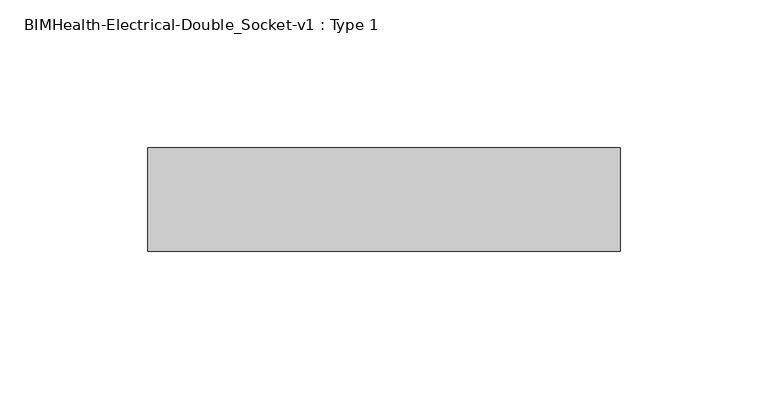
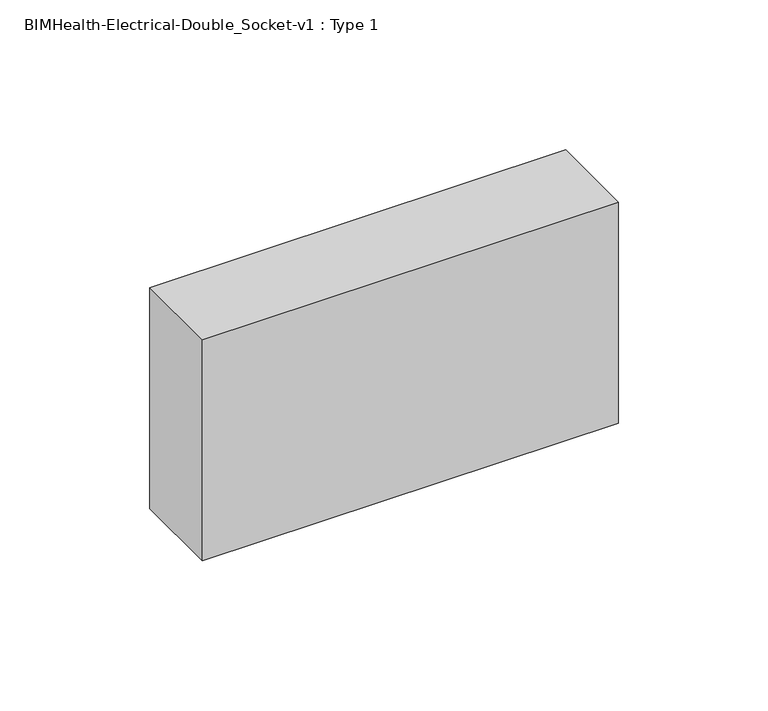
"""IFC4 building model written with IfcOpenShell, lengths in millimetres: proxy geometry, BIMHealth-Electrical-Double_Socket-v1 : Type 1."""

from ifc_helpers import new_model, si_unit, frame, origin, place, context, project, spatial, polyline, outline, extrude, source, transform, mapped, element, save


def bimhealth_electrical_double_socket_v1_type_1_95ecb0e8(model_context):
    return source(origin(), model_context, "Body", "SweptSolid", [
        extrude(outline(polyline([(285.0, -25.0), (285.0, -60.0), (125.0, -60.0), (125.0, -25.0), (285.0, -25.0)])), frame((0.0, 0.0, 450.0), z_axis=(0.0, 0.0, 1.0), x_axis=(1.0, 0.0, 0.0)), (0.0, 0.0, 1.0), 90.0),
    ])


if __name__ == "__main__":
    model = new_model("IFC4")
    model_context = context("Model", 3, world=origin())
    ifc_project = project(units=[si_unit("LENGTHUNIT", "METRE", prefix="MILLI")], contexts=[model_context])
    site = spatial("IfcSite", under=ifc_project)
    building = spatial("IfcBuilding", under=site)
    placement = place(None, origin())
    bimhealth_electrical_double_socket_v1_type_1_shape = bimhealth_electrical_double_socket_v1_type_1_95ecb0e8(model_context)
    element("IfcBuildingElementProxy", 1, Name="BIMHealth-Electrical-Double_Socket-v1 : Type 1", ObjectType="BIMHealth-Electrical-Double_Socket-v1 : Type 1", at=placement, inside=building, context=model_context, shape_type="MappedRepresentation", body=[
        mapped(bimhealth_electrical_double_socket_v1_type_1_shape, transform((0.0, 0.0, 0.0), x_axis=(1.0, 0.0, 0.0), y_axis=(0.0, 1.0, 0.0), z_axis=(0.0, 0.0, 1.0))),
    ])
    save(model, "model.ifc")
